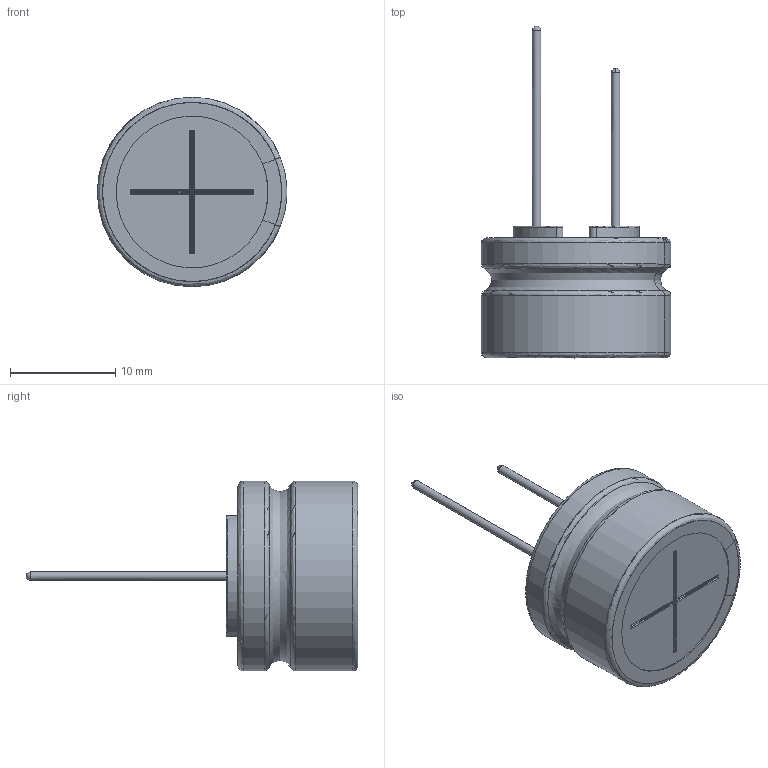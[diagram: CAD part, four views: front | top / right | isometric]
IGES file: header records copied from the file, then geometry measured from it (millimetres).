
Start section: JAMA-IS VERSION  1.0
Bounding box: 17.97 x 31.5 x 18 mm (x, y, z)
Surface area: 2970.6 mm2 (no closed solid volume)
Topology: 0 solids, 0 shells, 132 faces, 1531 edges, 1512 vertices
Faces by surface type: bspline 132
